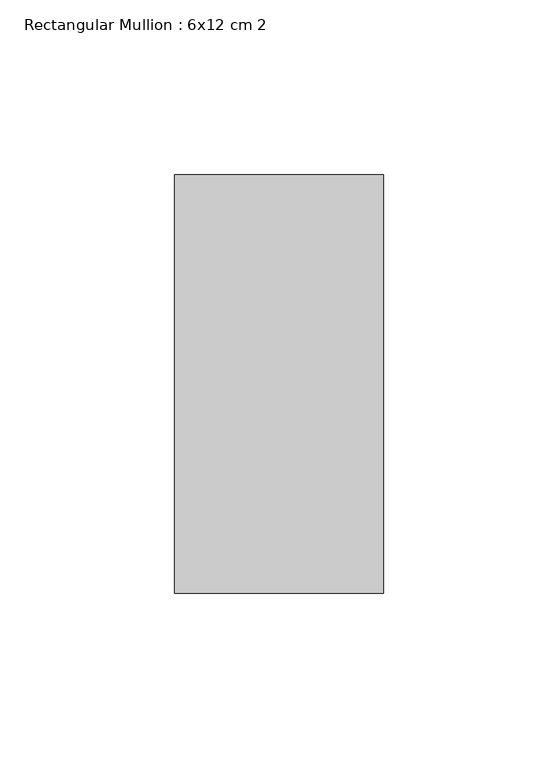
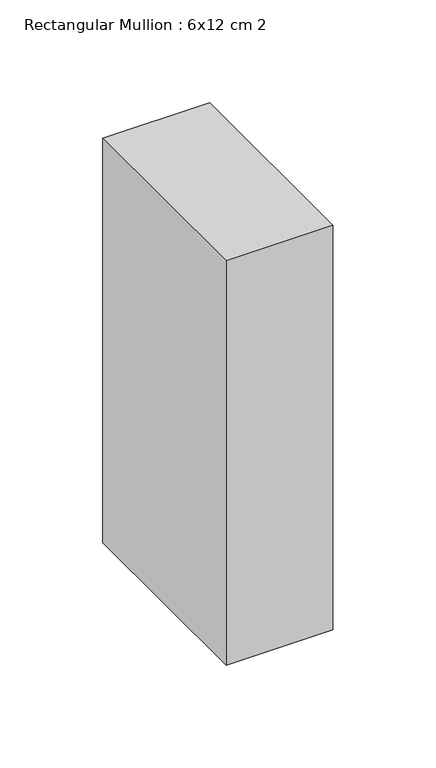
"""IFC4 building model written with IfcOpenShell, lengths in millimetres: member geometry, Rectangular Mullion : 6x12 cm 2."""

from ifc_helpers import new_model, si_unit, frame, origin, place, context, project, spatial, polyline, outline, extrude, source, transform, mapped, element, save


def rectangular_mullion_6x12_cm_2_ca1232f9(model_context):
    return source(origin(), model_context, "Body", "SweptSolid", [
        extrude(outline(polyline([(0.0, 205.0), (0.0, 85.0), (-60.0, 85.0), (-60.0, 205.0), (0.0, 205.0)])), frame((0.0, 0.0, -240.2515992), z_axis=(0.0, 0.0, 1.0), x_axis=(1.0, 0.0, 0.0)), (0.0, 0.0, 1.0), 240.2515992),
    ])


if __name__ == "__main__":
    model = new_model("IFC4")
    model_context = context("Model", 3, world=origin())
    ifc_project = project(units=[si_unit("LENGTHUNIT", "METRE", prefix="MILLI")], contexts=[model_context])
    site = spatial("IfcSite", under=ifc_project)
    building = spatial("IfcBuilding", under=site)
    placement = place(None, origin())
    rectangular_mullion_6x12_cm_2_shape = rectangular_mullion_6x12_cm_2_ca1232f9(model_context)
    element("IfcMember", 1, ObjectType="Rectangular Mullion : 6x12 cm 2", at=placement, inside=building, context=model_context, shape_type="MappedRepresentation", body=[
        mapped(rectangular_mullion_6x12_cm_2_shape, transform((0.0, 0.0, 0.0), x_axis=(1.0, 0.0, 0.0), y_axis=(0.0, 1.0, 0.0), z_axis=(0.0, 0.0, 1.0))),
    ])
    save(model, "model.ifc")
